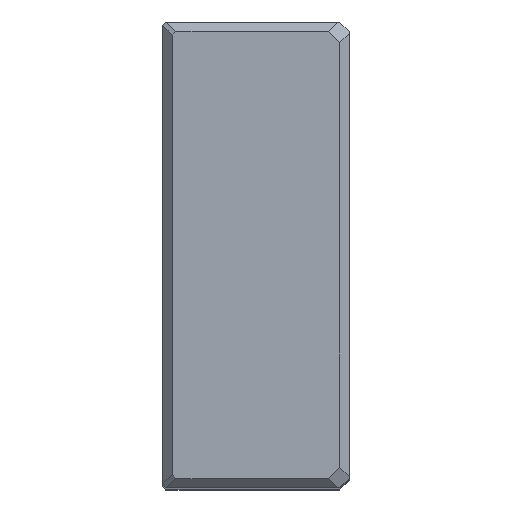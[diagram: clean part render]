
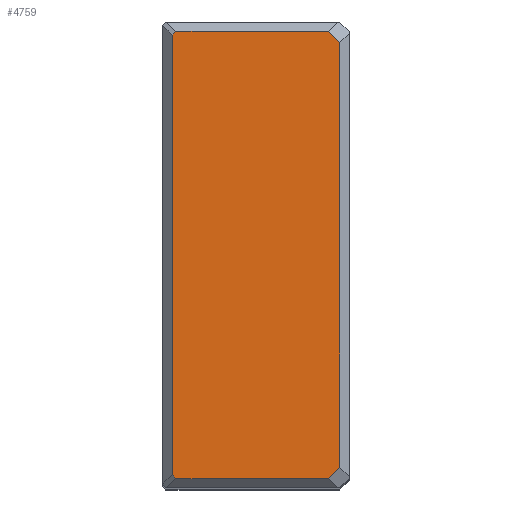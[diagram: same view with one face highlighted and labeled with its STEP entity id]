
A CAD part, top view. The second image highlights one B-rep face of the part: STEP entity #4759.
In plain terms, the highlighted planar face has unit normal (0, 0, 1).
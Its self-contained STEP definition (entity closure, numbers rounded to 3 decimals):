
#95=VERTEX_POINT(' ',#96);
#96=CARTESIAN_POINT('',(-3.,-68.326,0.));
#97=VERTEX_POINT(' ',#98);
#98=CARTESIAN_POINT('',(-6.674,-72.,0.));
#127=VERTEX_POINT(' ',#128);
#128=CARTESIAN_POINT('',(-3.,68.326,0.));
#135=VERTEX_POINT(' ',#136);
#136=CARTESIAN_POINT('',(-6.674,72.,0.));
#161=VERTEX_POINT(' ',#162);
#162=CARTESIAN_POINT('',(-55.775,-72.,0.));
#169=VERTEX_POINT(' ',#170);
#170=CARTESIAN_POINT('',(-57.,-70.775,0.));
#189=VERTEX_POINT(' ',#190);
#190=CARTESIAN_POINT('',(-57.,70.775,0.));
#193=VERTEX_POINT(' ',#194);
#194=CARTESIAN_POINT('',(-55.775,72.,0.));
#944=LINE('',#945,#946);
#945=CARTESIAN_POINT('',(32.663,-32.663,0.));
#946=VECTOR('',#947,1.);
#947=DIRECTION('',(0.707,0.707,0.));
#948=EDGE_CURVE(' ',#95,#97,#944,.F.);
#1074=LINE('',#1075,#1076);
#1075=CARTESIAN_POINT('',(-3.,-75.12,0.));
#1076=VECTOR('',#1077,1.);
#1077=DIRECTION('',(0.,1.,0.));
#1078=EDGE_CURVE(' ',#95,#127,#1074,.T.);
#1099=LINE('',#1100,#1101);
#1100=CARTESIAN_POINT('',(32.663,32.663,0.));
#1101=VECTOR('',#1102,1.);
#1102=DIRECTION('',(-0.707,0.707,0.));
#1103=EDGE_CURVE(' ',#135,#127,#1099,.F.);
#1249=LINE('',#1250,#1251);
#1250=CARTESIAN_POINT('',(-60.12,-72.,0.));
#1251=VECTOR('',#1252,1.);
#1252=DIRECTION('',(1.,0.,0.));
#1253=EDGE_CURVE(' ',#161,#97,#1249,.T.);
#1264=LINE('',#1265,#1266);
#1265=CARTESIAN_POINT('',(-63.888,-63.888,0.));
#1266=VECTOR('',#1267,1.);
#1267=DIRECTION('',(0.707,-0.707,0.));
#1268=EDGE_CURVE(' ',#161,#169,#1264,.F.);
#1361=LINE('',#1362,#1363);
#1362=CARTESIAN_POINT('',(-57.,-75.12,0.));
#1363=VECTOR('',#1364,1.);
#1364=DIRECTION('',(0.,1.,0.));
#1365=EDGE_CURVE(' ',#169,#189,#1361,.T.);
#1366=LINE('',#1367,#1368);
#1367=CARTESIAN_POINT('',(-63.888,63.888,0.));
#1368=VECTOR('',#1369,1.);
#1369=DIRECTION('',(-0.707,-0.707,0.));
#1370=EDGE_CURVE(' ',#189,#193,#1366,.F.);
#1371=LINE('',#1372,#1373);
#1372=CARTESIAN_POINT('',(-60.12,72.,0.));
#1373=VECTOR('',#1374,1.);
#1374=DIRECTION('',(1.,0.,0.));
#1375=EDGE_CURVE(' ',#135,#193,#1371,.F.);
#4744=ORIENTED_EDGE('',*,*,#1370,.F.);
#4745=ORIENTED_EDGE('',*,*,#1365,.F.);
#4746=ORIENTED_EDGE('',*,*,#1268,.F.);
#4747=ORIENTED_EDGE('',*,*,#1253,.T.);
#4748=ORIENTED_EDGE('',*,*,#948,.F.);
#4749=ORIENTED_EDGE('',*,*,#1078,.T.);
#4750=ORIENTED_EDGE('',*,*,#1103,.F.);
#4751=ORIENTED_EDGE('',*,*,#1375,.T.);
#4752=EDGE_LOOP('',(#4744,#4745,#4746,#4747,#4748,#4749,#4750,#4751));
#4753=FACE_OUTER_BOUND('',#4752,.T.);
#4754=PLANE('',#4755);
#4755=AXIS2_PLACEMENT_3D('',#4756,#4757,#4758);
#4756=CARTESIAN_POINT('',(-57.,0.,0.));
#4757=DIRECTION('',(0.,0.,1.));
#4758=DIRECTION('',(1.,0.,0.));
#4759=ADVANCED_FACE('',(#4753),#4754,.T.);
